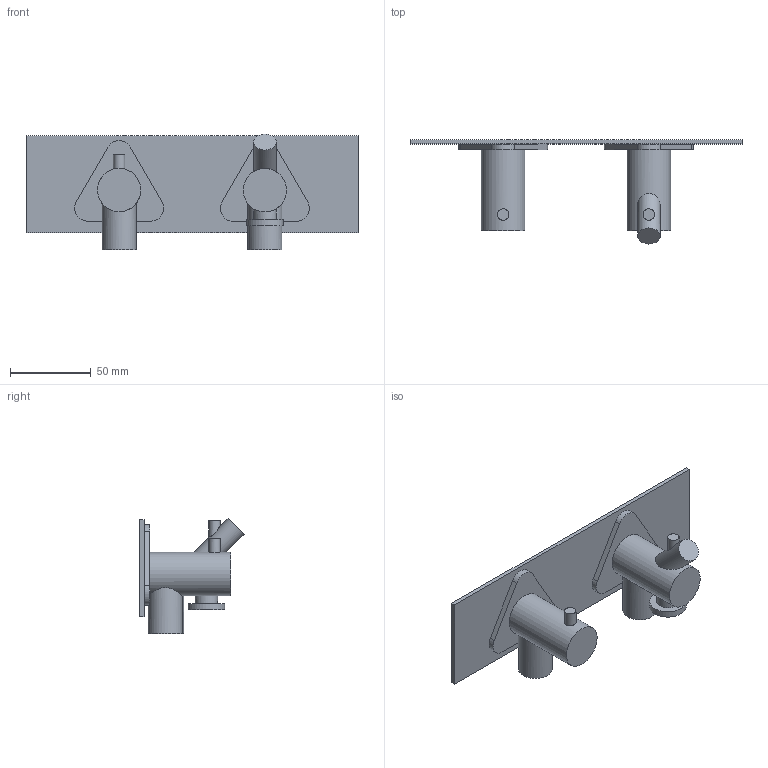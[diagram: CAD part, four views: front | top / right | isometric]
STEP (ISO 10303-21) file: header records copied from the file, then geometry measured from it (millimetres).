
FILE_DESCRIPTION(('STEP AP214'),'1');
FILE_NAME('Instaset_7873.STP','2025-09-23T12:30:45',(' '),(' '),'Spatial InterOp 3D',' ',' ');
FILE_SCHEMA(('AUTOMOTIVE_DESIGN { 1 0 10303 214 1 1 1 1 }'));
Length unit declared in the file: millimetre
Products named in the file (1): Quader
Bounding box: 205 x 64.27 x 71.59 mm (x, y, z)
Volume: 123455.5 mm3; surface area: 48296.4 mm2
Topology: 3 solids, 3 shells, 41 faces, 88 edges, 59 vertices
Faces by surface type: plane 26, cylinder 15
Full cylindrical faces by diameter (mm): 7 x2, 13.867 x1, 14 x1, 21 x2, 22.622 x1, 26.818 x2
Entity records: 1442 total; most frequent: CARTESIAN_POINT 562, DIRECTION 181, ORIENTED_EDGE 144, EDGE_CURVE 72, AXIS2_PLACEMENT_3D 71, EDGE_LOOP 56, VERTEX_POINT 52, ADVANCED_FACE 41
